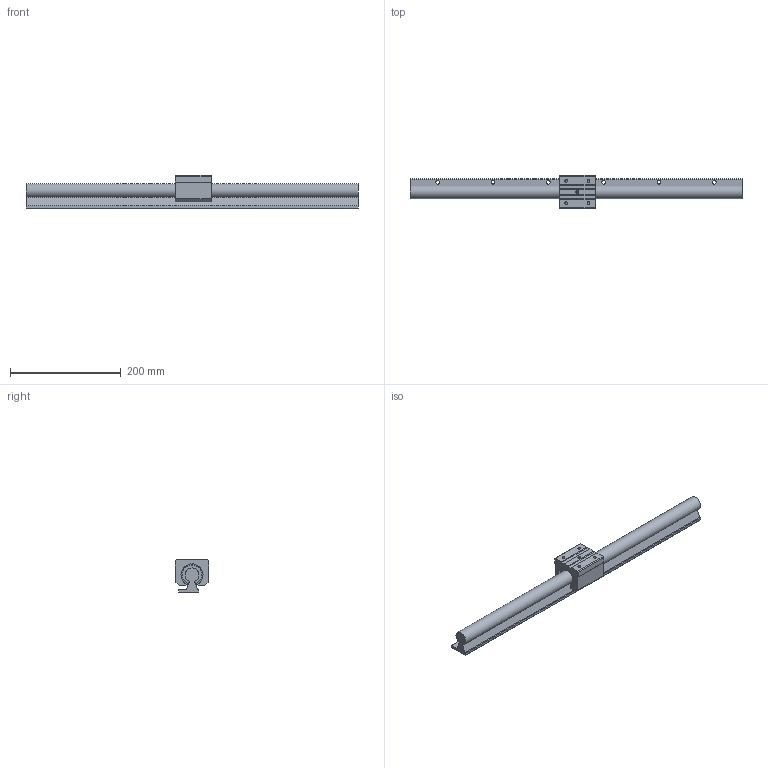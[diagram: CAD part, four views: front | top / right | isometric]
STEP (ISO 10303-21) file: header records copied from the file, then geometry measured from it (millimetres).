
FILE_DESCRIPTION((''),'2;1');
FILE_NAME('D:\製品 (図面)\カタログ用3D\リニアガイド関連\STEP形式\GHA(W)\GHA25.stp','2010-06-08T09:14:17',('Tsuchiya'),(''),'Autodesk Inventor 10','Autodesk Inventor 10','');
FILE_SCHEMA(('AUTOMOTIVE_DESIGN { 1 0 10303 214 1 1 1 1 }'));
Length unit declared in the file: millimetre
Products named in the file (3): GHA25; GHA251; GHA252
Assembly tree (2 placements, depth 2):
  GHA25
    GHA251
    GHA252
Bounding box: 600 x 60 x 60 mm (x, y, z)
Volume: 666389.2 mm3; surface area: 127679.3 mm2
Topology: 2 solids, 2 shells, 160 faces, 422 edges, 275 vertices
Faces by surface type: plane 98, cylinder 37, bspline 10, torus 8, cone 7
Full cylindrical faces by diameter (mm): 6.5 x6, 10 x6, 10.4 x6
Entity records: 4734 total; most frequent: CARTESIAN_POINT 1062, ORIENTED_EDGE 722, DIRECTION 717, EDGE_CURVE 361, VERTEX_POINT 254, AXIS2_PLACEMENT_3D 247, EDGE_LOOP 225, VECTOR 223
